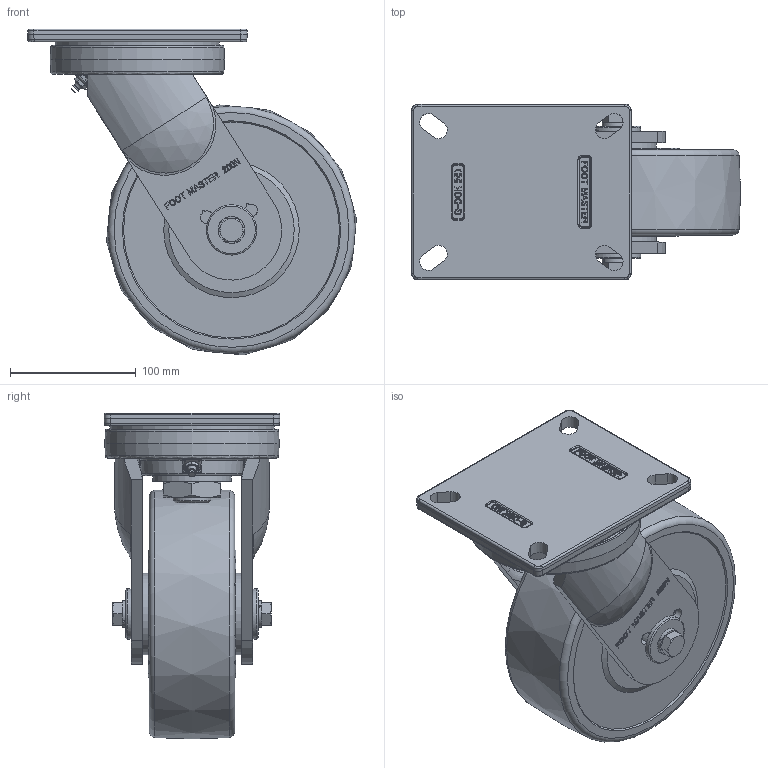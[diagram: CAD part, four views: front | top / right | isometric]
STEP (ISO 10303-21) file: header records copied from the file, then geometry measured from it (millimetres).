
FILE_DESCRIPTION(/* description */ (''),/* implementation_level */ '2;1');
FILE_NAME(/* name */ 'Y:\1.기술연구소\2.연구개발 진행중\133.고하중캐스터 브레이크 타입 변경건_2025.11.03\1.도면\4.홈페이지용 도면\01. 3D\GXT-200 SERIES\GXT-200N-ASF-MCD.stp',/* time_stamp */ '2026-07-21T18:54:56+09:00',/* author */ ('장용하'),/* organization */ (''),/* preprocessor_version */ 'ST-DEVELOPER v18.1',/* originating_system */ 'Autodesk Inventor 2021',/* authorisation */ '');
FILE_SCHEMA (('CONFIG_CONTROL_DESIGN'));
Length unit declared in the file: millimetre
Products named in the file (1): GXT-200N-ASF-MCD
Bounding box: 262.06 x 140 x 259.56 mm (x, y, z)
Volume: 3129166.3 mm3; surface area: 233622 mm2
Topology: 1 solids, 1 shells, 1015 faces, 2731 edges, 1794 vertices
Faces by surface type: plane 488, bspline 380, cylinder 94, cone 31, torus 18, sphere 4
Full cylindrical faces by diameter (mm): 12 x2, 30 x1, 40 x2, 62.5 x1, 65 x2, 131.086 x1
Entity records: 33255 total; most frequent: CARTESIAN_POINT 10192, ORIENTED_EDGE 5458, DIRECTION 3549, EDGE_CURVE 2729, VERTEX_POINT 1794, LINE 1573, VECTOR 1573, EDGE_LOOP 1113
